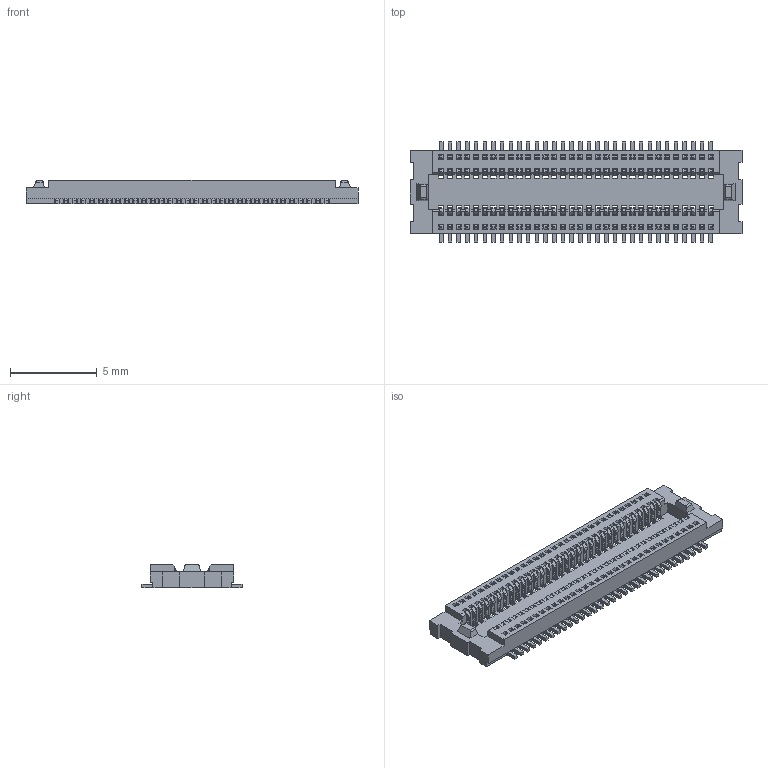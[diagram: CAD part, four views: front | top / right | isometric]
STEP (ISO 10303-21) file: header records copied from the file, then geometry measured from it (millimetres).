
FILE_DESCRIPTION(('CATIA V5 STEP Exchange'),'2;1');
FILE_NAME('F:\黄富鸿\板对板\0.5 单槽\无柱\母座\H1.35\HC-PBB05-1-64-F-H1.35-G1-R-06 (BTB0.5 单槽 母座 立贴 编带)-HCTL.stp','2026-01-23T06:07:14+00:00',('none'),('none'),'CATIA Version 5 Release 20 GA (IN-10)','CATIA V5 STEP AP203','none');
FILE_SCHEMA(('CONFIG_CONTROL_DESIGN'));
Products named in the file (1): Part2
Bounding box: 19.1 x 5.76 x 1.35 mm (x, y, z)
Volume: 67.5 mm3; surface area: 643.2 mm2
Topology: 65 solids, 65 shells, 2870 faces, 8792 edges, 5860 vertices
Faces by surface type: plane 1970, cylinder 900
Entity records: 83392 total; most frequent: ORIENTED_EDGE 17584, CARTESIAN_POINT 14961, DIRECTION 9244, EDGE_CURVE 8792, VECTOR 6992, LINE 6992, VERTEX_POINT 5860, EDGE_LOOP 2934
